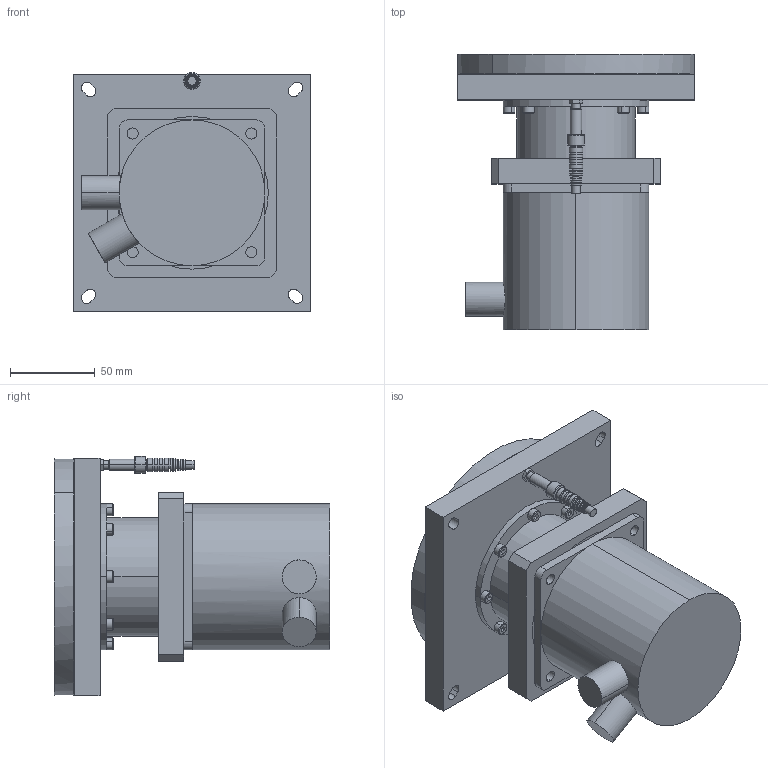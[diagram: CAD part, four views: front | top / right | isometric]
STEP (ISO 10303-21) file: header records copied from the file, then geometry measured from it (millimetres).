
FILE_DESCRIPTION (( 'STEP AP214' ), '1' );
FILE_NAME ('Drehtisch TP004.STEP', '2014-07-08T06:27:16', ( '' ), ( '' ), 'SwSTEP 2.0', 'SolidWorks 2014', '' );
FILE_SCHEMA (( 'AUTOMOTIVE_DESIGN' ));
Length unit declared in the file: millimetre
Products named in the file (10): Stecker_BKS_S_48_gerade-+-D017358_ _PDB_732145; Flansch-+-D015732_ _PDB_1025650; Getriebe-+-D009377_ _PDB_1020412; Drehteller-+-D015728_ _PDB_1025648; Drehtisch TP004; 86_2P_8A_K -+-D000914_ _PDB_729077; Induktiver_Näherungsschalter-+-D006429_ _Eine_Mutter; SC-912_M 5 x 10; SC-6325_5 x 14; SC-912_M 4 x 16
Assembly tree (22 placements, depth 2):
  Drehtisch TP004
    Flansch-+-D015732_ _PDB_1025650
    Getriebe-+-D009377_ _PDB_1020412
    Drehteller-+-D015728_ _PDB_1025648
    86_2P_8A_K -+-D000914_ _PDB_729077
    Induktiver_Näherungsschalter-+-D006429_ _Eine_Mutter
    SC-912_M 5 x 10  x7
    SC-6325_5 x 14
    SC-912_M 4 x 16  x8
    Stecker_BKS_S_48_gerade-+-D017358_ _PDB_732145
Bounding box: 140 x 162.5 x 141 mm (x, y, z)
Volume: 1252622.7 mm3; surface area: 182606.8 mm2
Topology: 22 solids, 22 shells, 805 faces, 1822 edges, 1122 vertices
Faces by surface type: plane 361, cylinder 294, cone 110, torus 36, sphere 4
Entity records: 15683 total; most frequent: CARTESIAN_POINT 2644, DIRECTION 2619, ORIENTED_EDGE 2200, EDGE_CURVE 1100, AXIS2_PLACEMENT_3D 1049, VERTEX_POINT 706, EDGE_LOOP 602, CIRCLE 557
